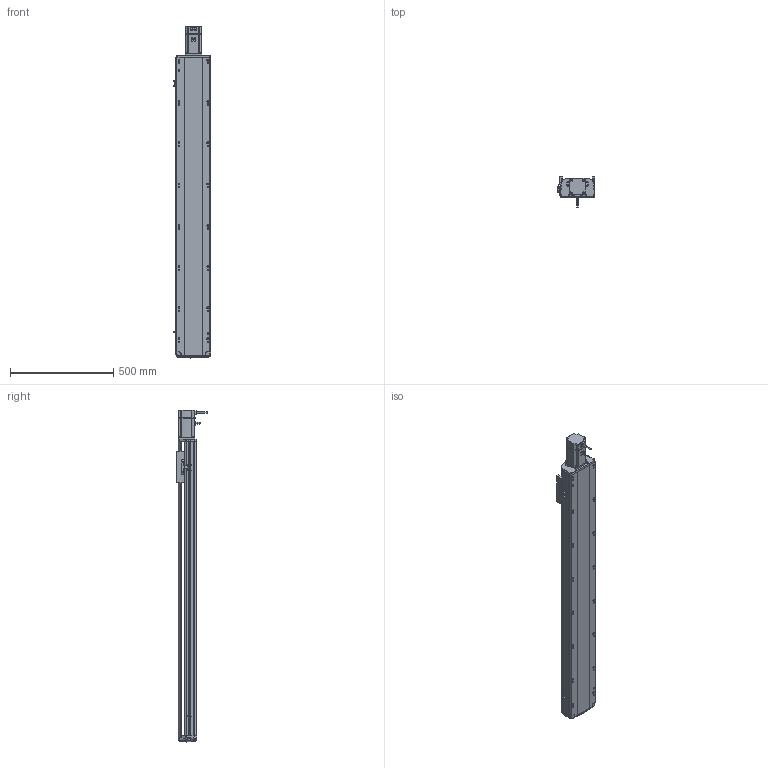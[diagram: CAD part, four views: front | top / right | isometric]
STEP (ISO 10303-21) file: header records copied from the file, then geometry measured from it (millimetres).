
FILE_DESCRIPTION (( 'STEP AP214' ), '1' );
FILE_NAME ('RTH17-XX-1200-E-M75-C4.STEP', '2025-10-24T09:59:36', ( '' ), ( '' ), 'SwSTEP 2.0', 'SolidWorks 2018', '' );
FILE_SCHEMA (( 'AUTOMOTIVE_DESIGN' ));
Length unit declared in the file: millimetre
Products named in the file (9): N_RTH-L-012 感应片(外置)^RTH17-XX-XX-E-M75-C4（方程式）; N_OMRON EE-SX672 換覜ん^RTH17-XX-XX-E-M75-C4ㄗ源最宒ㄘ; N_M75^RTH17-XX-XX-E-M75-C4（方程式）; N_RTH17-E-008-P75电机板^RTH17-XX-XX-E-M75-C4（方程式）; N_RTH17-GY-001P^RTH17-XX-XX-E-M75-C4（方程式）; N_RTH17-E-007上盖^RTH17-XX-XX-E-M75-C4（方程式）; N_RTH17-E-011底座^RTH17-XX-XX-E-M75-C4（方程式）; RTH17-XX-1200-E-M75-C4; N_RTH17-E-004丝杆螺母连接座^RTH17-XX-XX-E-M75-C4（方程式）
Assembly tree (10 placements, depth 2):
  RTH17-XX-1200-E-M75-C4
    N_RTH17-E-011底座^RTH17-XX-XX-E-M75-C4（方程式）
    N_RTH17-E-007上盖^RTH17-XX-XX-E-M75-C4（方程式）
    N_M75^RTH17-XX-XX-E-M75-C4（方程式）
    N_RTH17-E-008-P75电机板^RTH17-XX-XX-E-M75-C4（方程式）
    N_OMRON EE-SX672 換覜ん^RTH17-XX-XX-E-M75-C4ㄗ源最宒ㄘ  x3
    N_RTH-L-012 感应片(外置)^RTH17-XX-XX-E-M75-C4（方程式）
    N_RTH17-E-004丝杆螺母连接座^RTH17-XX-XX-E-M75-C4（方程式）
    N_RTH17-GY-001P^RTH17-XX-XX-E-M75-C4（方程式）
Bounding box: 183.5 x 145.7 x 1608.19 mm (x, y, z)
Volume: 11639200.7 mm3; surface area: 1506386.1 mm2
Topology: 9 solids, 11 shells, 1812 faces, 5037 edges, 3266 vertices
Faces by surface type: plane 828, cylinder 570, bspline 377, cone 28, torus 9
Entity records: 54070 total; most frequent: CARTESIAN_POINT 21171, ORIENTED_EDGE 7098, DIRECTION 5957, EDGE_CURVE 3553, VERTEX_POINT 2302, AXIS2_PLACEMENT_3D 2039, LINE 1879, VECTOR 1879
